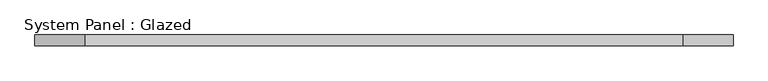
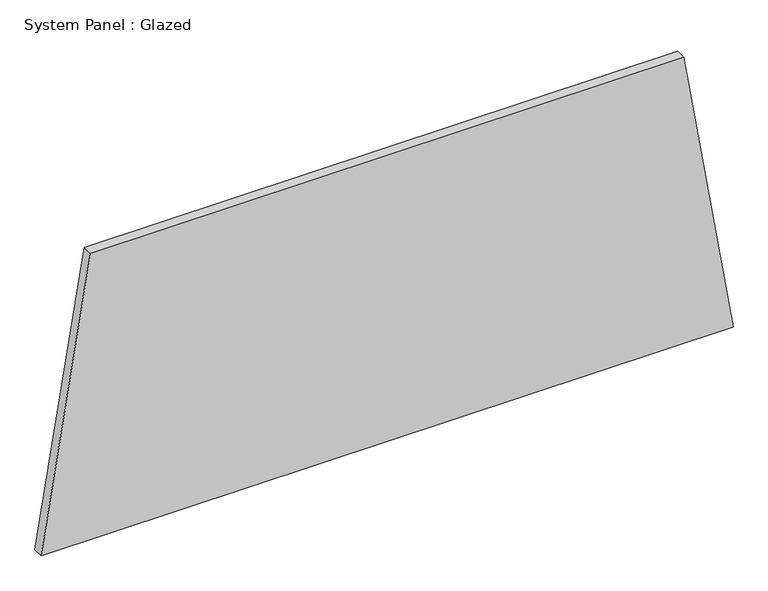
"""IFC4 building model written with IfcOpenShell, lengths in millimetres: plate geometry, System Panel : Glazed."""

from ifc_helpers import new_model, si_unit, frame, origin, place, context, project, spatial, polyline, outline, extrude, source, transform, mapped, element, save


def system_panel_glazed_c9cd471f(model_context):
    return source(origin(), model_context, "Body", "SweptSolid", [
        extrude(outline(polyline([(0.0, -831.4434791), (0.0, 831.4434791), (726.6823754, 713.0418165), (726.6823754, -713.0418165), (0.0, -831.4434791)])), frame((0.0, 19.05, 0.0), z_axis=(0.0, 1.0, 0.0), x_axis=(0.0, 0.0, 1.0)), (0.0, 0.0, 1.0), 25.4),
    ])


if __name__ == "__main__":
    model = new_model("IFC4")
    model_context = context("Model", 3, world=origin())
    ifc_project = project(units=[si_unit("LENGTHUNIT", "METRE", prefix="MILLI")], contexts=[model_context])
    site = spatial("IfcSite", under=ifc_project)
    building = spatial("IfcBuilding", under=site)
    placement = place(None, origin())
    system_panel_glazed_shape = system_panel_glazed_c9cd471f(model_context)
    element("IfcPlate", 1, ObjectType="System Panel : Glazed", at=placement, inside=building, context=model_context, shape_type="MappedRepresentation", body=[
        mapped(system_panel_glazed_shape, transform((0.0, 0.0, 0.0), x_axis=(1.0, 0.0, 0.0), y_axis=(0.0, 1.0, 0.0), z_axis=(0.0, 0.0, 1.0))),
    ])
    save(model, "model.ifc")
